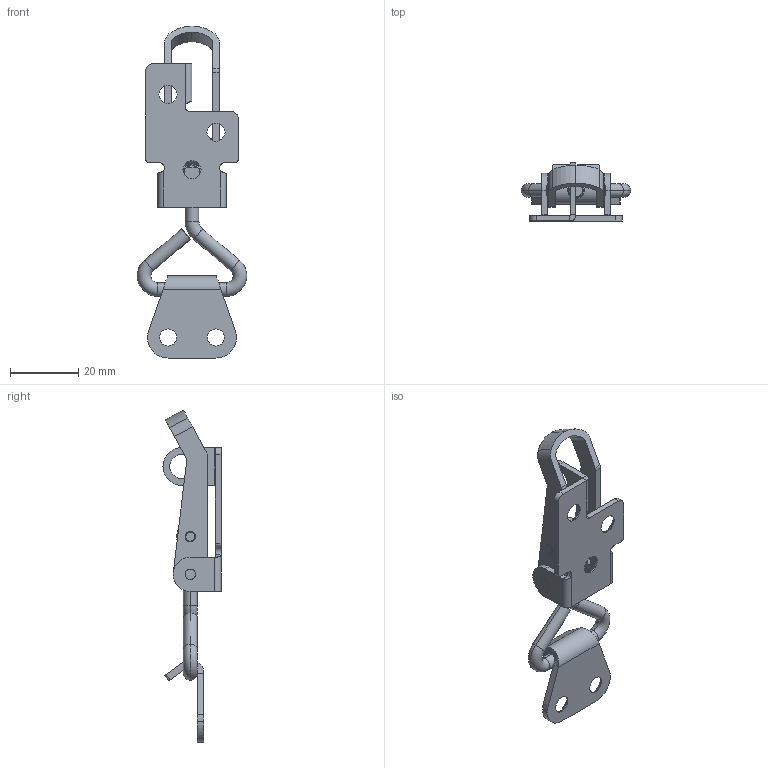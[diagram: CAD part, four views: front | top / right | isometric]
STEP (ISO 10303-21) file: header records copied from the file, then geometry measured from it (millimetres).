
FILE_DESCRIPTION (( 'STEP AP203' ), '1' );
FILE_NAME ('SK3-016-1ST.STEP', '2018-11-01T07:50:21', ( 'admin' ), ( 'Microsoft' ), 'SwSTEP 2.0', 'SolidWorks 2015', '' );
FILE_SCHEMA (( 'CONFIG_CONTROL_DESIGN' ));
Length unit declared in the file: millimetre
Products named in the file (8): SK3-016-1ST; SK3-016-1ST蜇璃; SK3-016-1ST蜇璃2; SK3-016-1ST蜇璃3; SK3-016-1ST蜇璃4; hex nuts, style 1-grades ab gb_GB_FASTENER_NUT_SNAB1 M5-N; thin head rivets gb_GB_CONNECTING_PIECE_RIVET_THR 3X4
Assembly tree (8 placements, depth 2):
  SK3-016-1ST
    SK3-016-1ST
    SK3-016-1ST蜇璃
    SK3-016-1ST蜇璃2
    SK3-016-1ST蜇璃3
    SK3-016-1ST蜇璃4
    hex nuts, style 1-grades ab gb_GB_FASTENER_NUT_SNAB1 M5-N
    thin head rivets gb_GB_CONNECTING_PIECE_RIVET_THR 3X4  x2
Bounding box: 32 x 17 x 97 mm (x, y, z)
Volume: 6617.1 mm3; surface area: 8750.5 mm2
Topology: 8 solids, 8 shells, 257 faces, 651 edges, 410 vertices
Faces by surface type: cylinder 138, plane 71, cone 21, torus 14, bspline 9, sphere 4
Entity records: 11423 total; most frequent: CARTESIAN_POINT 4816, ORIENTED_EDGE 1250, DIRECTION 1179, EDGE_CURVE 625, AXIS2_PLACEMENT_3D 462, VERTEX_POINT 394, EDGE_LOOP 279, LINE 255
